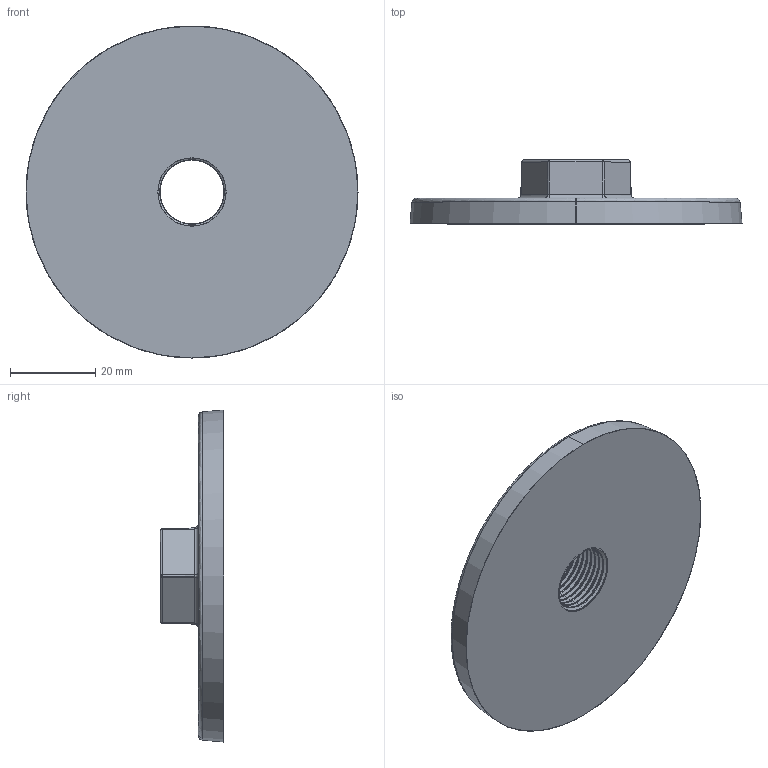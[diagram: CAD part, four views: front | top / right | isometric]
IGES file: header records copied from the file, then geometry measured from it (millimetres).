
Start section: SolidWorks IGES file using analytic representation for surfaces
Global section: file name: C:\Users\Joel Rosa\Desktop\Tubulação\12-99-OK\12-99-003.IGS; native system: SolidWorks 2011; preprocessor: SolidWorks 2011; author: Joel Rosa; date: 131021.195129; units: millimetre
Bounding box: 78 x 15 x 78 mm (x, y, z)
Surface area: 12327.9 mm2 (no closed solid volume)
Topology: 0 solids, 0 shells, 268 faces, 2441 edges, 2441 vertices
Faces by surface type: bspline 195, revolution 73
